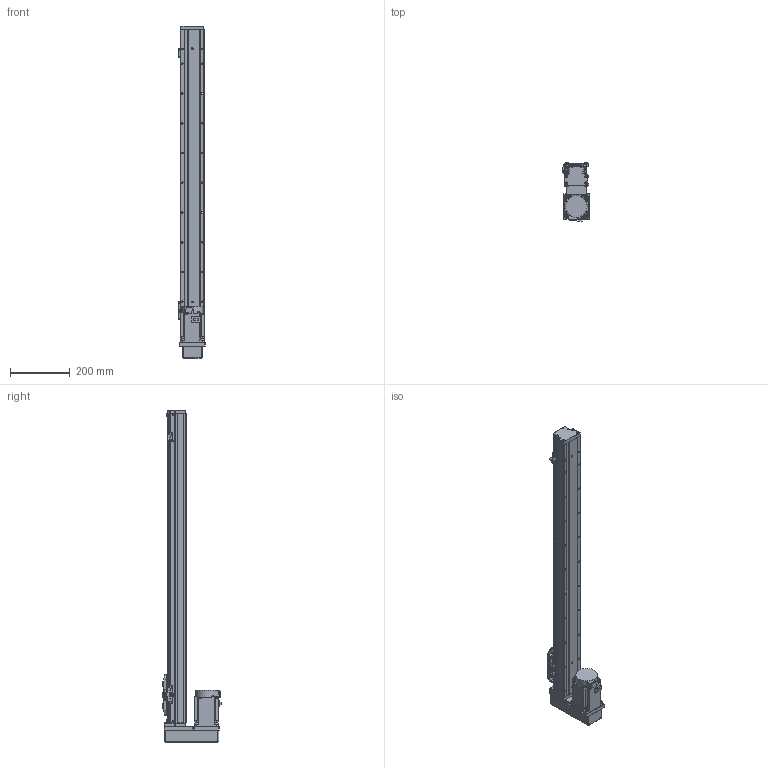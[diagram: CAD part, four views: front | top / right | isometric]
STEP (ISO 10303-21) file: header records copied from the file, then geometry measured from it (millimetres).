
FILE_DESCRIPTION (( 'STEP AP203' ), '1' );
FILE_NAME ('GTH8-850-BM-M75-C4.step', '2023-02-14T02:30:06', ( '微软用户' ), ( '微软中国' ), 'SwSTEP 2.0', 'SolidWorks 2020', '' );
FILE_SCHEMA (( 'CONFIG_CONTROL_DESIGN' ));
Length unit declared in the file: millimetre
Products named in the file (18): GTH50-023; GBT 70.3-M3℅6; GBT96.1-2002 3×0.8; GTH80-022; BTH-M3X5X6; GTH80-001_850; GBT 70.1-M3℅6; CTHA86-015-3_CTHA86-015-4; GTH80-003; GBT 70.1-M4×16; CTHA86-035; GTH80-004; GTH80-028; hg-kn73j_-s100; GTH80-006; GTH50-024; GTH8-850-BM-M75-C4; GTH80-013
Assembly tree (57 placements, depth 2):
  GTH8-850-BM-M75-C4
    GTH80-001_850
    GTH80-003
    GTH80-004
    GTH80-006
    GTH80-013
    GBT 70.3-M3℅6  x4
    GTH80-022
    GBT 70.1-M3℅6  x14
    GBT 70.1-M4×16  x8
    GTH80-028  x2
    GTH50-024  x3
    GTH50-023  x3
    GBT96.1-2002 3×0.8  x6
    BTH-M3X5X6  x8
    CTHA86-015-3_CTHA86-015-4
    CTHA86-035
    hg-kn73j_-s100
Bounding box: 89.4 x 195.3 x 1116 mm (x, y, z)
Volume: 6047182.7 mm3; surface area: 589829.5 mm2
Topology: 59 solids, 59 shells, 2207 faces, 5130 edges, 3144 vertices
Faces by surface type: plane 1153, cylinder 639, cone 243, torus 158, sphere 12, bspline 2
Entity records: 40032 total; most frequent: CARTESIAN_POINT 6719, DIRECTION 6613, ORIENTED_EDGE 6070, EDGE_CURVE 3035, AXIS2_PLACEMENT_3D 2338, LINE 1937, VECTOR 1937, VERTEX_POINT 1919
